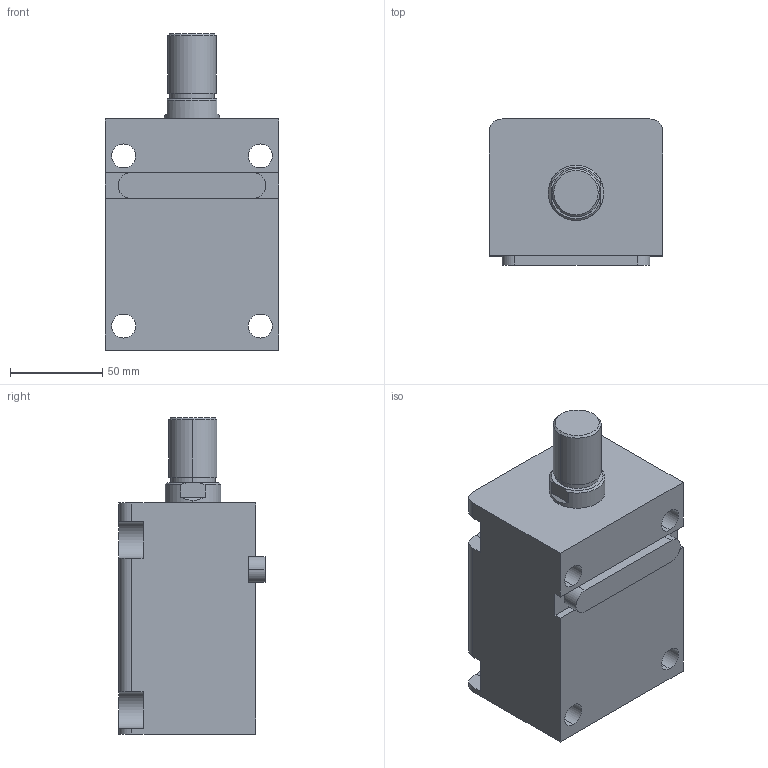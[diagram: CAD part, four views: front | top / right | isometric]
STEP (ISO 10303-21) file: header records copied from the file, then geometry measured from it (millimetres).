
FILE_DESCRIPTION (( 'STEP AP203' ), '1' );
FILE_NAME ('HTB-LA50-65W.STEP', '2019-10-09T07:11:45', ( '微软用户' ), ( '微软中国' ), 'SwSTEP 2.0', 'SolidWorks 2012', '' );
FILE_SCHEMA (( 'CONFIG_CONTROL_DESIGN' ));
Length unit declared in the file: millimetre
Products named in the file (4): HTB-LA50-65W; HTB-LA50-瑩; HTB-LA50-65W活塞杆; HTB-LA50-65掛极
Assembly tree (3 placements, depth 2):
  HTB-LA50-65W
    HTB-LA50-65掛极
    HTB-LA50-65W活塞杆
    HTB-LA50-瑩
Bounding box: 94 x 79 x 171 mm (x, y, z)
Volume: 762706.8 mm3; surface area: 109620.4 mm2
Topology: 3 solids, 3 shells, 90 faces, 219 edges, 144 vertices
Faces by surface type: plane 41, cylinder 37, cone 8, torus 4
Entity records: 3107 total; most frequent: DIRECTION 497, CARTESIAN_POINT 487, ORIENTED_EDGE 438, EDGE_CURVE 219, AXIS2_PLACEMENT_3D 190, VERTEX_POINT 144, LINE 117, VECTOR 117
